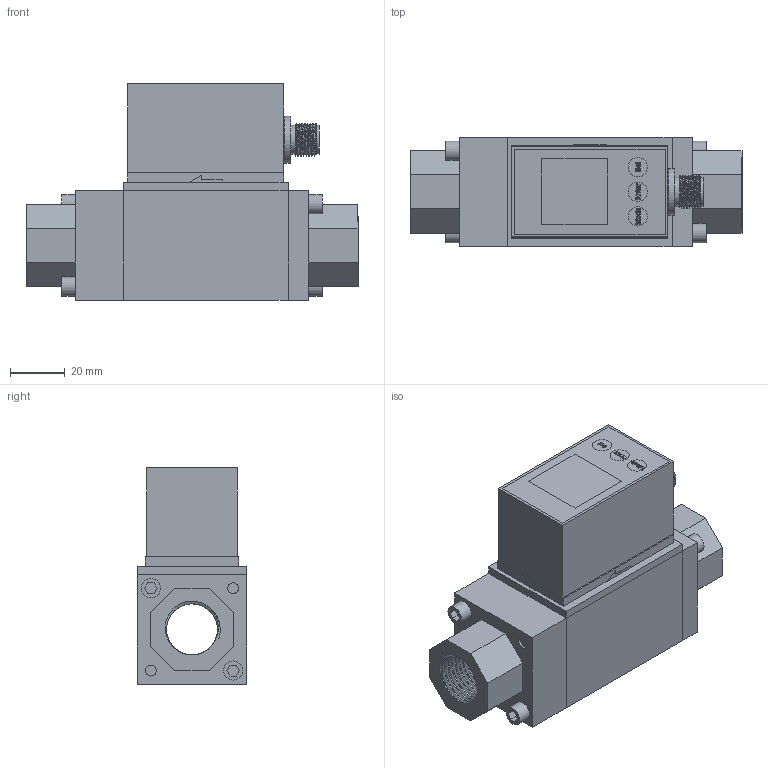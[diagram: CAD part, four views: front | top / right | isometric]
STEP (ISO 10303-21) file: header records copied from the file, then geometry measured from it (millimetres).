
FILE_DESCRIPTION (( 'STEP AP203' ), '1' );
FILE_NAME ('苤講最RC12.STEP', '2024-07-12T01:29:23', ( '' ), ( '' ), 'SwSTEP 2.0', 'SolidWorks 2023', '' );
FILE_SCHEMA (( 'CONFIG_CONTROL_DESIGN' ));
Length unit declared in the file: millimetre
Products named in the file (9): RC12出水口; 小量程RC12; 03-M12盘装插座; RC12主体; RC12进水口; 02-显示模块; 08-固定螺栓; 01-基座; 04-M12针套（5针）
Assembly tree (11 placements, depth 2):
  小量程RC12
    01-基座
    02-显示模块
    03-M12盘装插座
    04-M12针套（5针）
    08-固定螺栓  x4
    RC12出水口
    RC12进水口
    RC12主体
Bounding box: 121 x 40 x 78.91 mm (x, y, z)
Volume: 205185.2 mm3; surface area: 60894.6 mm2
Topology: 11 solids, 11 shells, 387 faces, 968 edges, 647 vertices
Faces by surface type: plane 232, bspline 90, cylinder 57, torus 8
Full cylindrical faces by diameter (mm): 1 x5, 4 x16, 7 x7, 9 x1, 9.5 x2, 10.5 x2, 12 x2, 17 x1, 18.6 x19
Entity records: 19412 total; most frequent: CARTESIAN_POINT 11052, ORIENTED_EDGE 1594, DIRECTION 1192, EDGE_CURVE 797, VERTEX_POINT 556, LINE 520, VECTOR 520, EDGE_LOOP 445
